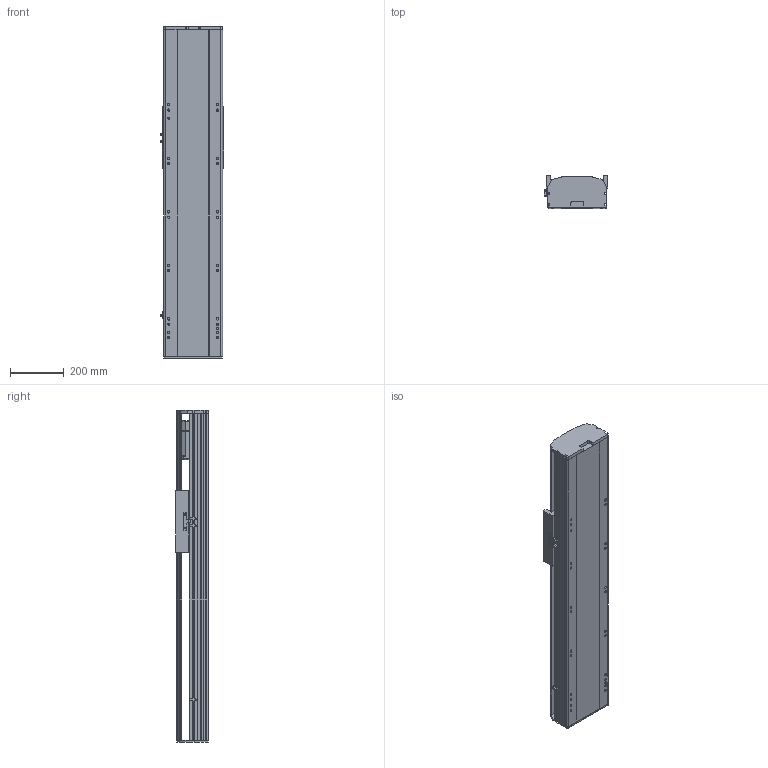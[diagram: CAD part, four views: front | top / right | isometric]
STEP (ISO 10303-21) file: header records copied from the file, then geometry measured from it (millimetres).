
FILE_DESCRIPTION (( 'STEP AP214' ), '1' );
FILE_NAME ('RTH22-XX-650-B-M75-C4.STEP', '2025-10-24T10:29:50', ( 'Microsoft' ), ( 'Microsoft' ), 'SwSTEP 2.0', 'SolidWorks 2018', '' );
FILE_SCHEMA (( 'AUTOMOTIVE_DESIGN' ));
Length unit declared in the file: millimetre
Products named in the file (9): N_750W萇儂^RTH22-XX-XX-B-M75-C4; N_RTH22-E-004-SFS25賑釱^RTH22-XX-XX-B-M75-C4; N_RTH22-B-011菁釱^RTH22-XX-XX-B-M75-C4; N_RTH22-GY-013外置感应片^RTH22-XX-XX-B-M75-C4; N_RTH22-GY-001耜裔^RTH22-XX-XX-B-M75-C4; N_RTH22-B-007奻裔^RTH22-XX-XX-B-M75-C4; N_RTH22-B-008萇儂啣^RTH22-XX-XX-B-M75-C4; N_OMRON EE-SX672 传感器^RTH22-XX-XX-B-M75-C4; RTH22-XX-650-B-M75-C4
Assembly tree (10 placements, depth 2):
  RTH22-XX-650-B-M75-C4
    N_RTH22-B-011菁釱^RTH22-XX-XX-B-M75-C4
    N_RTH22-GY-001耜裔^RTH22-XX-XX-B-M75-C4
    N_750W萇儂^RTH22-XX-XX-B-M75-C4
    N_RTH22-B-008萇儂啣^RTH22-XX-XX-B-M75-C4
    N_RTH22-B-007奻裔^RTH22-XX-XX-B-M75-C4
    N_OMRON EE-SX672 传感器^RTH22-XX-XX-B-M75-C4  x3
    N_RTH22-GY-013外置感应片^RTH22-XX-XX-B-M75-C4
    N_RTH22-E-004-SFS25賑釱^RTH22-XX-XX-B-M75-C4
Bounding box: 238.5 x 122 x 1240 mm (x, y, z)
Volume: 17390712.3 mm3; surface area: 1809791.6 mm2
Topology: 10 solids, 10 shells, 1515 faces, 4150 edges, 2683 vertices
Faces by surface type: plane 752, cylinder 430, bspline 279, cone 54
Entity records: 37433 total; most frequent: CARTESIAN_POINT 11697, ORIENTED_EDGE 5284, DIRECTION 4940, EDGE_CURVE 2642, VERTEX_POINT 1719, AXIS2_PLACEMENT_3D 1654, LINE 1632, VECTOR 1632
